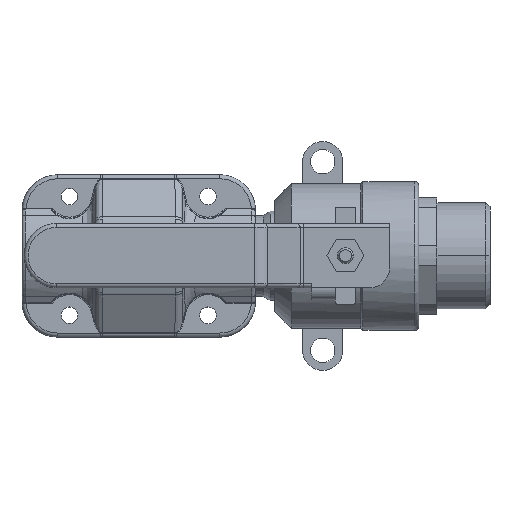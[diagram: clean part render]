
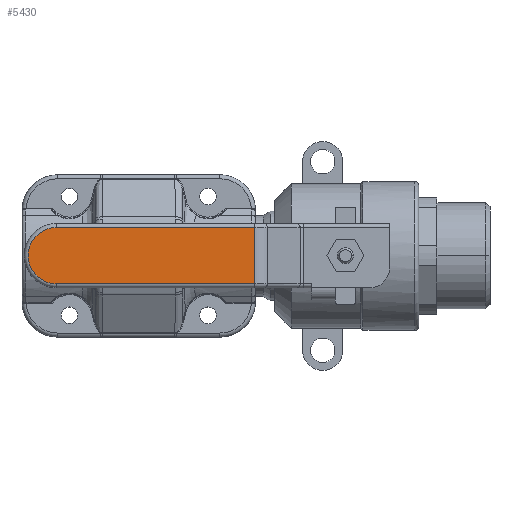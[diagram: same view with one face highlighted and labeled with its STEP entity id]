
A CAD part, top view. The second image highlights one B-rep face of the part: STEP entity #5430.
In plain terms, the highlighted planar face has unit normal (0, 0, 1).
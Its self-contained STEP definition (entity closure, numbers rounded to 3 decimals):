
#2586=DIRECTION('',(1.,0.,0.));
#2587=VECTOR('',#2586,50.148);
#2588=CARTESIAN_POINT('',(-22.327,7.104,48.926));
#2589=LINE('',#2588,#2587);
#2593=DIRECTION('',(0.,1.,0.));
#2594=VECTOR('',#2593,14.208);
#2595=CARTESIAN_POINT('',(27.821,-7.104,48.926));
#2596=LINE('',#2595,#2594);
#2600=DIRECTION('',(-1.,0.,0.));
#2601=VECTOR('',#2600,50.148);
#2602=CARTESIAN_POINT('',(27.821,-7.104,48.926));
#2603=LINE('',#2602,#2601);
#2607=CARTESIAN_POINT('',(-22.327,0.,48.926));
#2608=DIRECTION('',(0.,0.,-1.));
#2609=DIRECTION('',(0.,-1.,0.));
#2610=AXIS2_PLACEMENT_3D('',#2607,#2608,#2609);
#3157=CARTESIAN_POINT('',(27.821,7.104,48.926));
#3158=VERTEX_POINT('',#3157);
#3161=CARTESIAN_POINT('',(-22.327,7.104,48.926));
#3162=VERTEX_POINT('',#3161);
#3165=CARTESIAN_POINT('',(-22.327,-7.104,48.926));
#3166=VERTEX_POINT('',#3165);
#3169=CARTESIAN_POINT('',(27.821,-7.104,48.926));
#3170=VERTEX_POINT('',#3169);
#5418=CARTESIAN_POINT('',(29.776,8.119,48.926));
#5419=DIRECTION('',(0.,0.,1.));
#5420=DIRECTION('',(-1.,0.,0.));
#5421=AXIS2_PLACEMENT_3D('',#5418,#5419,#5420);
#5422=PLANE('',#5421);
#5423=ORIENTED_EDGE('',*,*,#5331,.T.);
#5425=ORIENTED_EDGE('',*,*,#5424,.F.);
#5426=ORIENTED_EDGE('',*,*,#5412,.T.);
#5427=ORIENTED_EDGE('',*,*,#5316,.T.);
#5428=EDGE_LOOP('',(#5423,#5425,#5426,#5427));
#5429=FACE_OUTER_BOUND('',#5428,.F.);
#2611=CIRCLE('',#2610,7.104);
#5316=EDGE_CURVE('',#3166,#3162,#2611,.T.);
#5331=EDGE_CURVE('',#3162,#3158,#2589,.T.);
#5412=EDGE_CURVE('',#3170,#3166,#2603,.T.);
#5424=EDGE_CURVE('',#3170,#3158,#2596,.T.);
#5430=ADVANCED_FACE('',(#5429),#5422,.T.);
